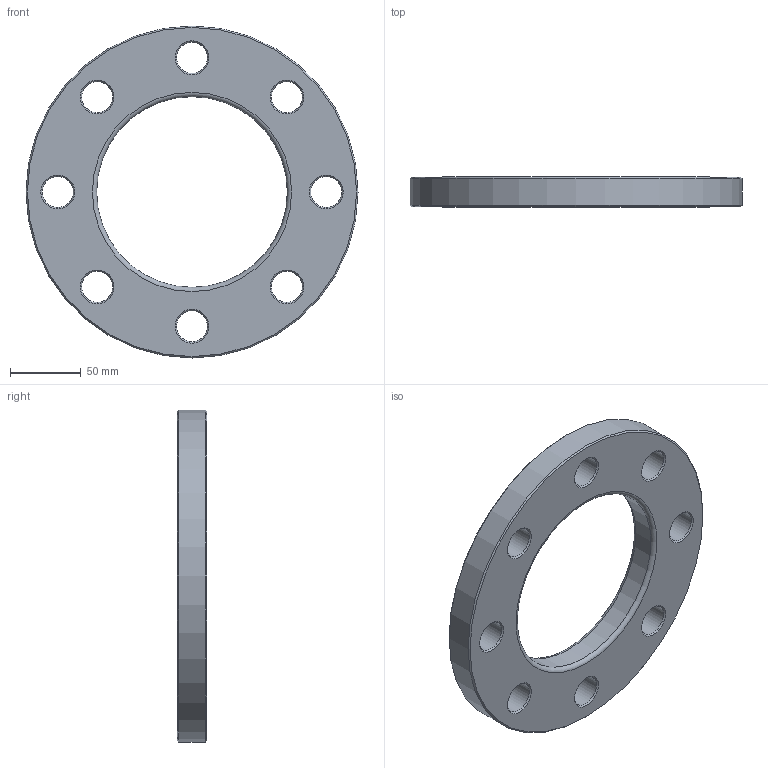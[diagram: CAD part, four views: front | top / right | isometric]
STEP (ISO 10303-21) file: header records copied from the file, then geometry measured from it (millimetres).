
FILE_DESCRIPTION(/* description */ ('Unknown'),/* implementation_level */ '2;1');
FILE_NAME(/* name */ 'FZ125L',/* time_stamp */ '2021-03-15T15:23:14+01:00',/* author */ ('Unknown'),/* organization */ ('Unknown'),/* preprocessor_version */ 'ST-DEVELOPER v16.7',/* originating_system */ 'Solid Edge',/* authorisation */ 'Unknown');
FILE_SCHEMA (('AUTOMOTIVE_DESIGN {1 0 10303 214 3 1 1}'));
Length unit declared in the file: millimetre
Products named in the file (1): FZ125L
Bounding box: 235 x 21 x 235 mm (x, y, z)
Volume: 543431.7 mm3; surface area: 85480.1 mm2
Topology: 1 solids, 1 shells, 32 faces, 94 edges, 64 vertices
Faces by surface type: cone 18, cylinder 10, plane 2, torus 2
Full cylindrical faces by diameter (mm): 22 x8, 135 x1, 235 x1
Entity records: 790 total; most frequent: DIRECTION 146, CARTESIAN_POINT 113, ORIENTED_EDGE 80, EDGE_LOOP 80, FACE_BOUND 80, AXIS2_PLACEMENT_3D 73, EDGE_CURVE 40, VERTEX_POINT 40
